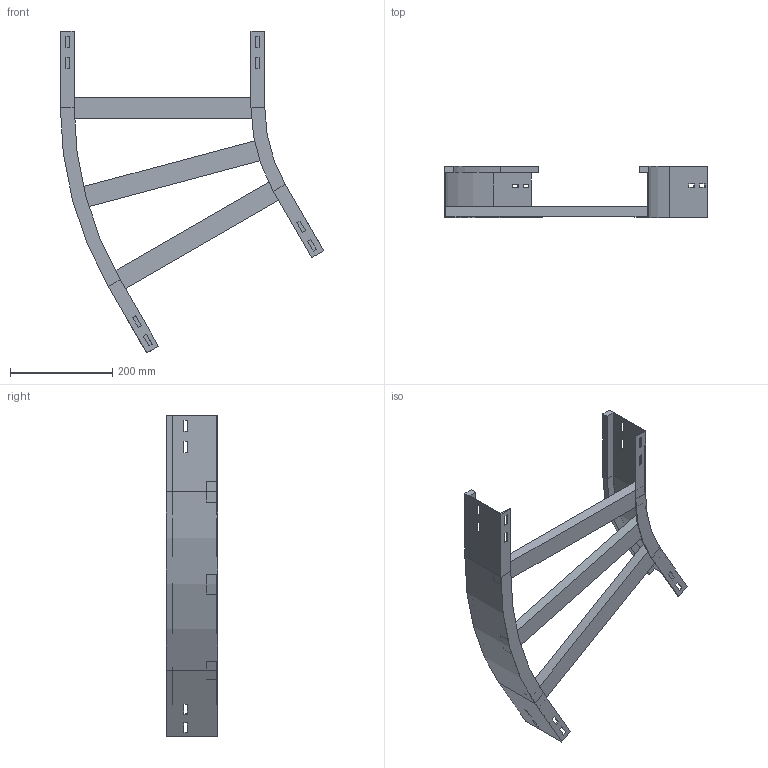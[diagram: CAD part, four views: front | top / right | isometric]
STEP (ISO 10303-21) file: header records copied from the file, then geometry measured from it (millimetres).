
FILE_DESCRIPTION (( 'STEP AP214' ), '1' );
FILE_NAME ('A2_12B3D400.step', '2025-02-21T15:07:13', ( '' ), ( '' ), 'SwSTEP 2.0', 'SolidWorks 2023', '' );
FILE_SCHEMA (( 'AUTOMOTIVE_DESIGN' ));
Length unit declared in the file: millimetre
Products named in the file (4): A2_LONGH.ESTERNO 30°_H100_R300+400; A2_LONGH.INTERNO 30°_H100_R300; TRAVERSINO_400; A2_12B3D400
Assembly tree (5 placements, depth 2):
  A2_12B3D400
    A2_LONGH.INTERNO 30°_H100_R300
    A2_LONGH.ESTERNO 30°_H100_R300+400
    TRAVERSINO_400  x3
Bounding box: 515.19 x 100 x 629.9 mm (x, y, z)
Volume: 1453982.7 mm3; surface area: 468653.2 mm2
Topology: 5 solids, 5 shells, 134 faces, 340 edges, 216 vertices
Faces by surface type: plane 126, cylinder 8
Entity records: 3821 total; most frequent: CARTESIAN_POINT 646, ORIENTED_EDGE 632, DIRECTION 592, EDGE_CURVE 316, LINE 300, VECTOR 300, VERTEX_POINT 200, EDGE_LOOP 154
